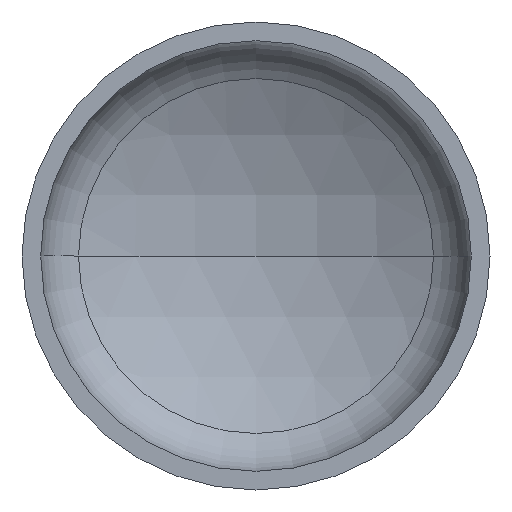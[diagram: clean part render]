
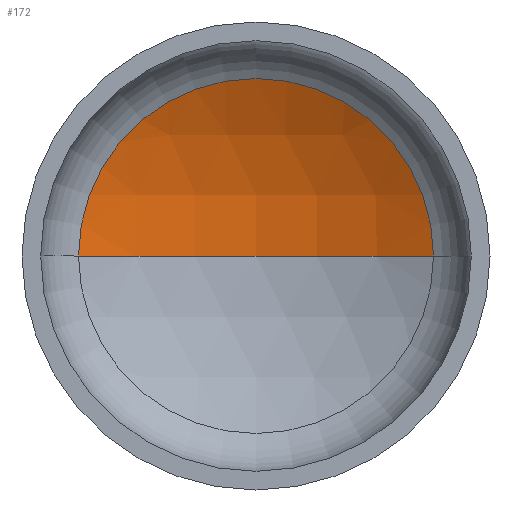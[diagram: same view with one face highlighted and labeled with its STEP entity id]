
A CAD part, front view. The second image highlights one B-rep face of the part: STEP entity #172.
In plain terms, the highlighted spherical face has radius 2240 mm.
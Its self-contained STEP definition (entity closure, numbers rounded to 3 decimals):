
#8 = CARTESIAN_POINT ( 'NONE',  ( 0., -1518.718, 0. ) ) ;
#10 = VERTEX_POINT ( 'NONE', #234 ) ;
#26 = AXIS2_PLACEMENT_3D ( 'NONE', #237, #259, #176 ) ;
#28 = AXIS2_PLACEMENT_3D ( 'NONE', #8, #125, #333 ) ;
#29 = AXIS2_PLACEMENT_3D ( 'NONE', #93, #296, #145 ) ;
#32 = AXIS2_PLACEMENT_3D ( 'NONE', #151, #363, #184 ) ;
#38 = CARTESIAN_POINT ( 'NONE',  ( 1061.834, 453.618, 0. ) ) ;
#93 = CARTESIAN_POINT ( 'NONE',  ( 0., -1518.718, 0. ) ) ;
#108 = EDGE_CURVE ( 'NONE', #223, #390, #241, .T. ) ;
#120 = EDGE_CURVE ( 'NONE', #10, #223, #312, .T. ) ;
#125 = DIRECTION ( 'NONE',  ( 0., 0., -1. ) ) ;
#128 = EDGE_CURVE ( 'NONE', #10, #390, #388, .T. ) ;
#138 = EDGE_LOOP ( 'NONE', ( #401, #367, #156 ) ) ;
#145 = DIRECTION ( 'NONE',  ( 1., 0., 0. ) ) ;
#151 = CARTESIAN_POINT ( 'NONE',  ( 0., 453.618, 0. ) ) ;
#156 = ORIENTED_EDGE ( 'NONE', *, *, #108, .T. ) ;
#172 = ADVANCED_FACE ( 'NONE', ( #304 ), #225, .F. ) ;
#176 = DIRECTION ( 'NONE',  ( -1., 0., 0. ) ) ;
#184 = DIRECTION ( 'NONE',  ( 1., 0., 0. ) ) ;
#191 = CARTESIAN_POINT ( 'NONE',  ( -1061.834, 453.618, 0. ) ) ;
#223 = VERTEX_POINT ( 'NONE', #38 ) ;
#225 = SPHERICAL_SURFACE ( 'NONE', #26, 2240. ) ;
#234 = CARTESIAN_POINT ( 'NONE',  ( 0., 721.282, 0. ) ) ;
#237 = CARTESIAN_POINT ( 'NONE',  ( 0., -1518.718, 0. ) ) ;
#241 = CIRCLE ( 'NONE', #32, 1061.834 ) ;
#259 = DIRECTION ( 'NONE',  ( 0., 0., -1. ) ) ;
#296 = DIRECTION ( 'NONE',  ( 0., 0., 1. ) ) ;
#304 = FACE_OUTER_BOUND ( 'NONE', #138, .T. ) ;
#312 = CIRCLE ( 'NONE', #28, 2240. ) ;
#333 = DIRECTION ( 'NONE',  ( -1., 0., 0. ) ) ;
#363 = DIRECTION ( 'NONE',  ( 0., -1., 0. ) ) ;
#367 = ORIENTED_EDGE ( 'NONE', *, *, #120, .T. ) ;
#388 = CIRCLE ( 'NONE', #29, 2240. ) ;
#390 = VERTEX_POINT ( 'NONE', #191 ) ;
#401 = ORIENTED_EDGE ( 'NONE', *, *, #128, .F. ) ;
